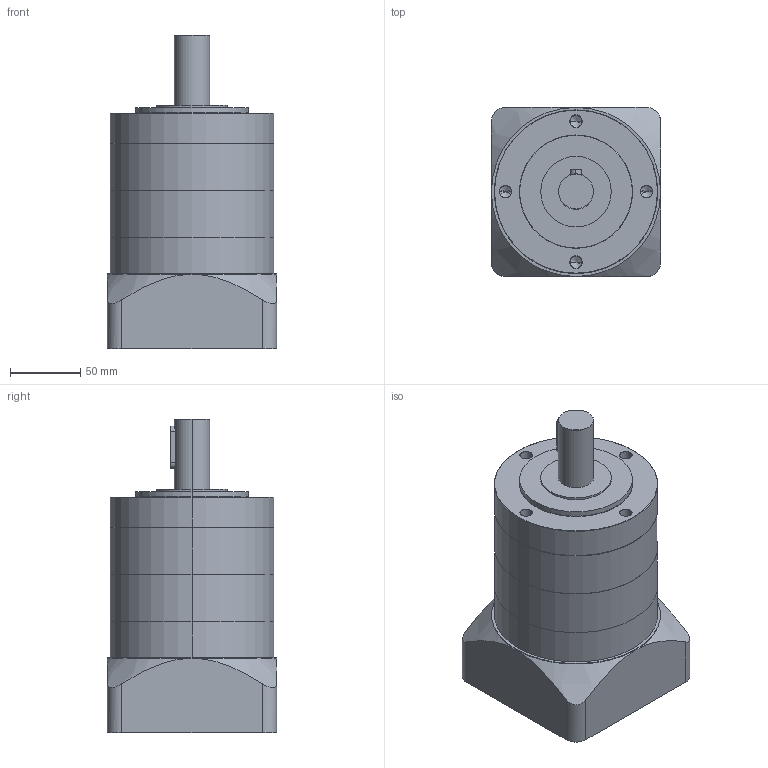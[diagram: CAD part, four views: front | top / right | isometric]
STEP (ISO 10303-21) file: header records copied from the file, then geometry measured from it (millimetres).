
FILE_DESCRIPTION (( 'STEP AP203' ), '1' );
FILE_NAME ('N120-L2.STEP', '2018-05-24T01:50:15', ( 'user' ), ( '' ), 'SwSTEP 2.0', 'SolidWorks 2014', '' );
FILE_SCHEMA (( 'CONFIG_CONTROL_DESIGN' ));
Length unit declared in the file: millimetre
Products named in the file (1): N120-L2
Bounding box: 120 x 120 x 222.75 mm (x, y, z)
Volume: 1672644.7 mm3; surface area: 171505.3 mm2
Topology: 3 solids, 3 shells, 107 faces, 228 edges, 136 vertices
Faces by surface type: cylinder 50, cone 32, plane 25
Entity records: 3233 total; most frequent: CARTESIAN_POINT 828, DIRECTION 528, ORIENTED_EDGE 440, EDGE_CURVE 220, AXIS2_PLACEMENT_3D 218, VERTEX_POINT 136, EDGE_LOOP 126, CIRCLE 110
